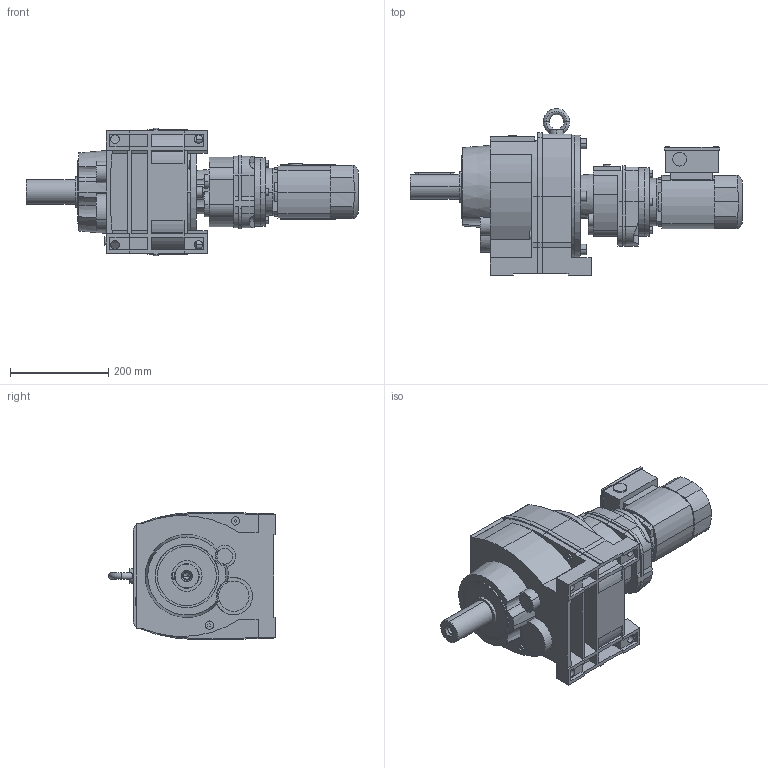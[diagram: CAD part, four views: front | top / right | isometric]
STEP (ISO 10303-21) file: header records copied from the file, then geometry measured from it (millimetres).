
FILE_DESCRIPTION(('STEP AP214'),'1');
FILE_NAME('STEP-File.stp','2018-01-01T00:00:00',(' '),('KEB'),' ','KEB-DRIVE',' ');
FILE_SCHEMA(('AUTOMOTIVE_DESIGN { 1 0 10303 214 1 1 1 1 }'));
Length unit declared in the file: millimetre
Products named in the file (10): g5a; w5_we_50x100; fp2-c5; g2b; cj2; dm63_kkn; kk08; PLUG_M25; ndm63; G53G22A DM63K4§CAD13
Assembly tree (9 placements, depth 2):
  G53G22A DM63K4§CAD13
    g5a
    w5_we_50x100
    fp2-c5
    g2b
    cj2
    dm63_kkn
    kk08
    PLUG_M25
    ndm63
Bounding box: 675.5 x 338.98 x 259 mm (x, y, z)
Volume: 17740651.5 mm3; surface area: 877689.7 mm2
Topology: 9 solids, 9 shells, 553 faces, 1483 edges, 1033 vertices
Faces by surface type: plane 334, cylinder 140, cone 72, torus 7
Entity records: 20135 total; most frequent: CARTESIAN_POINT 6744, ORIENTED_EDGE 2962, DIRECTION 2296, EDGE_CURVE 1481, VERTEX_POINT 1033, VECTOR 960, LINE 960, AXIS2_PLACEMENT_3D 668
